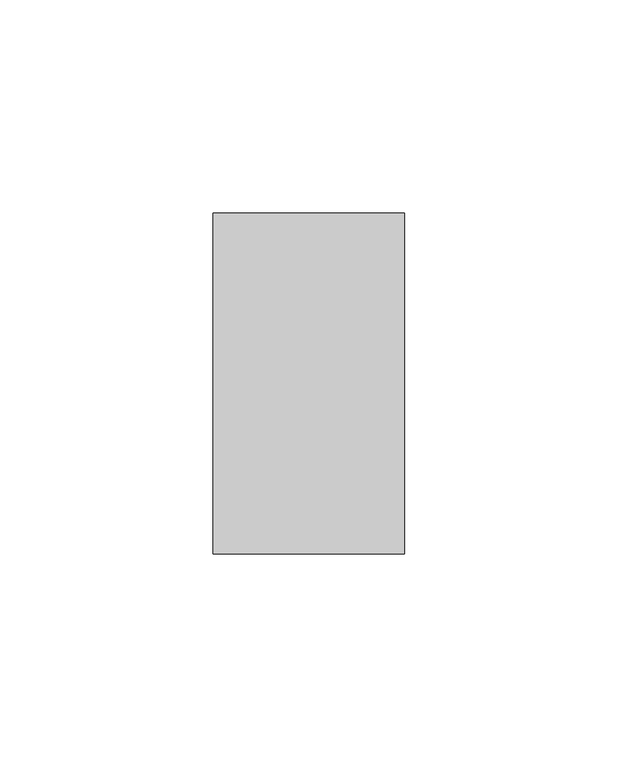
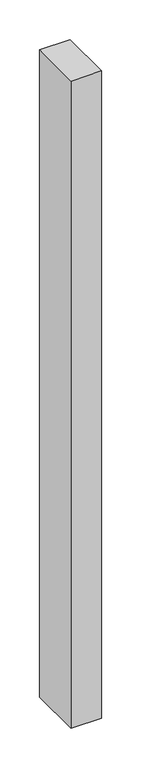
"""IFC4 building model written with IfcOpenShell, lengths in millimetres: member geometry, Obdélníková příčel : VERTI ELEMENT - vertikální."""

from ifc_helpers import new_model, si_unit, frame, origin, place, context, project, spatial, polyline, outline, extrude, source, transform, mapped, element, save


def member_7874e84f(model_context):
    return source(origin(), model_context, "Body", "SweptSolid", [
        extrude(outline(polyline([(-45.0, 40.0), (0.0, 40.0), (0.0, -40.0), (-45.0, -40.0), (-45.0, 40.0)])), frame((0.0, 0.0, -1000.0), z_axis=(0.0, 0.0, 1.0), x_axis=(1.0, 0.0, 0.0)), (0.0, 0.0, 1.0), 1000.0),
    ])


if __name__ == "__main__":
    model = new_model("IFC4")
    model_context = context("Model", 3, world=origin())
    ifc_project = project(units=[si_unit("LENGTHUNIT", "METRE", prefix="MILLI")], contexts=[model_context])
    site = spatial("IfcSite", under=ifc_project)
    building = spatial("IfcBuilding", under=site)
    placement = place(None, origin())
    member_shape = member_7874e84f(model_context)
    element("IfcMember", 1, ObjectType="Obdélníková příčel : VERTI ELEMENT - vertikální", at=placement, inside=building, context=model_context, shape_type="MappedRepresentation", body=[
        mapped(member_shape, transform((0.0, 0.0, 0.0), x_axis=(1.0, 0.0, 0.0), y_axis=(0.0, 1.0, 0.0), z_axis=(0.0, 0.0, 1.0))),
    ])
    save(model, "model.ifc")
